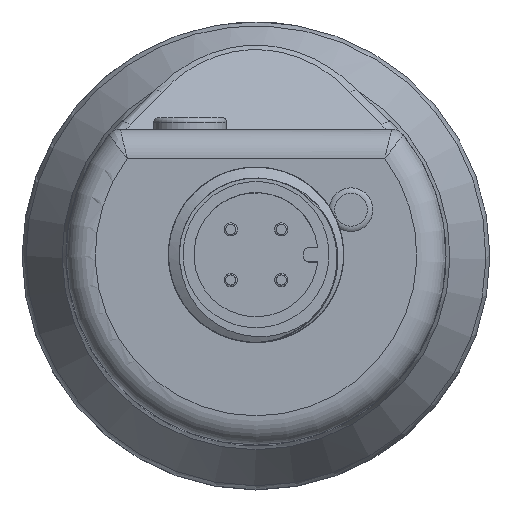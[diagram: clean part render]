
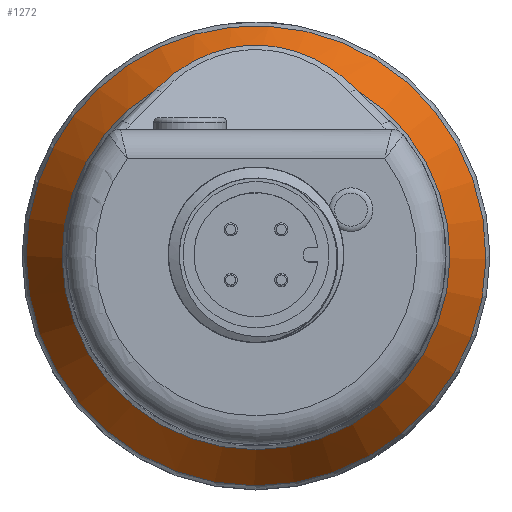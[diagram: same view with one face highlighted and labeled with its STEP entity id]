
A CAD part, top view. The second image highlights one B-rep face of the part: STEP entity #1272.
In plain terms, the highlighted conical face has half-angle 30 degrees and reference radius 13 mm.
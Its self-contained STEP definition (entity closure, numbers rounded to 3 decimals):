
#74=CONICAL_SURFACE('',#4514,13.,30.);
#155=B_SPLINE_CURVE_WITH_KNOTS('',3,(#8113,#8114,#8115,#8116,#8117,#8118),
 .UNSPECIFIED.,.F.,.F.,(4,2,4),(0.,0.5,1.),.UNSPECIFIED.);
#1024=FACE_BOUND('',#1895,.T.);
#1025=FACE_BOUND('',#1896,.T.);
#1272=ADVANCED_FACE('',(#1024,#1025),#74,.T.);
#1895=EDGE_LOOP('',(#2593,#2594));
#1896=EDGE_LOOP('',(#2595));
#2593=ORIENTED_EDGE('',*,*,#3578,.T.);
#2594=ORIENTED_EDGE('',*,*,#3790,.T.);
#2595=ORIENTED_EDGE('',*,*,#3791,.T.);
#3200=VERTEX_POINT('',#6025);
#3201=VERTEX_POINT('',#6026);
#3341=VERTEX_POINT('',#8120);
#3578=EDGE_CURVE('',#3200,#3201,#4150,.T.);
#3790=EDGE_CURVE('',#3201,#3200,#155,.T.);
#3791=EDGE_CURVE('',#3341,#3341,#4202,.T.);
#4150=CIRCLE('',#4368,13.268);
#4202=CIRCLE('',#4513,15.732);
#4368=AXIS2_PLACEMENT_3D('',#6024,#4901,#4902);
#4513=AXIS2_PLACEMENT_3D('',#8119,#5290,#5291);
#4514=AXIS2_PLACEMENT_3D('',#8121,#5292,#5293);
#4901=DIRECTION('',(0.,0.,-1.));
#4902=DIRECTION('',(1.,0.,0.));
#5290=DIRECTION('',(0.,0.,1.));
#5291=DIRECTION('',(-1.,0.,0.));
#5292=DIRECTION('',(0.,0.,-1.));
#5293=DIRECTION('',(1.,0.,0.));
#6024=CARTESIAN_POINT('',(0.,0.,14.836));
#6025=CARTESIAN_POINT('',(6.871,11.351,14.836));
#6026=CARTESIAN_POINT('',(-6.871,11.351,14.836));
#8113=CARTESIAN_POINT('',(-6.871,11.351,14.836));
#8114=CARTESIAN_POINT('',(-4.962,13.397,13.515));
#8115=CARTESIAN_POINT('',(-2.317,14.41,12.854));
#8116=CARTESIAN_POINT('',(2.292,14.417,12.849));
#8117=CARTESIAN_POINT('',(4.956,13.404,13.511));
#8118=CARTESIAN_POINT('',(6.871,11.351,14.836));
#8119=CARTESIAN_POINT('',(0.,0.,10.568));
#8120=CARTESIAN_POINT('',(-15.732,0.,10.568));
#8121=CARTESIAN_POINT('',(0.,0.,15.3));
